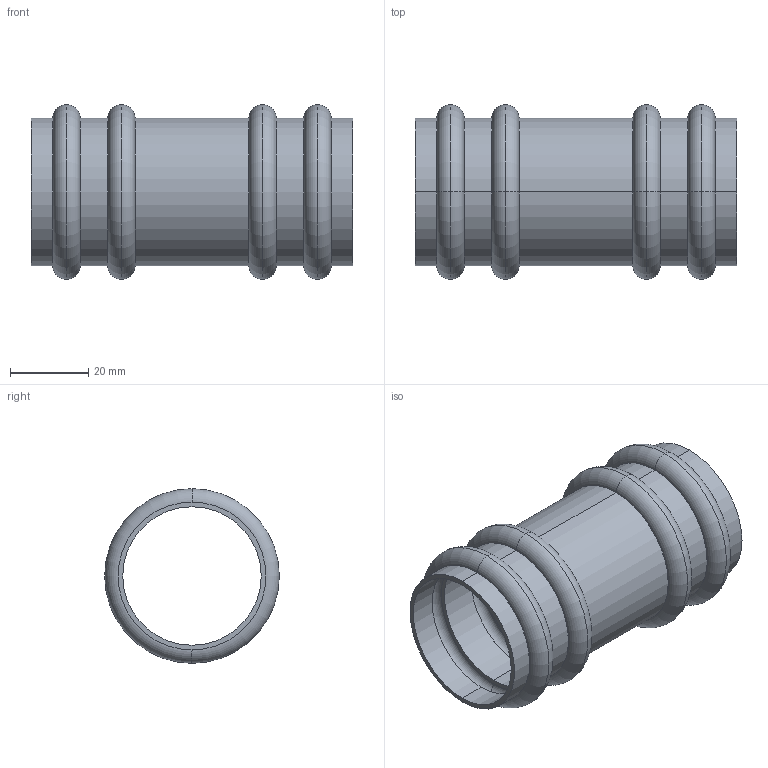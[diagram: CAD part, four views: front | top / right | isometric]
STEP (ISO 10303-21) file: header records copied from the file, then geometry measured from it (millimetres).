
FILE_DESCRIPTION(('starvars output'),'1');
FILE_NAME('cv20240422105224000011950.stp','10:52:25 2024/04/22',('Thomas Industrial Network Germany GmbH'),(' '),'Spatial InterOp 3D',' ',' ');
FILE_SCHEMA(('AUTOMOTIVE_DESIGN { 1 0 10303 214 3 1 1 }'));
Length unit declared in the file: millimetre
Products named in the file (1): 1
Bounding box: 82 x 44.5 x 44.5 mm (x, y, z)
Volume: 14763.2 mm3; surface area: 24210.9 mm2
Topology: 1 solids, 1 shells, 70 faces, 140 edges, 88 vertices
Faces by surface type: torus 32, cylinder 20, plane 18
Entity records: 2464 total; most frequent: DIRECTION 402, CARTESIAN_POINT 299, ORIENTED_EDGE 280, AXIS2_PLACEMENT_3D 191, EDGE_CURVE 140, CIRCLE 120, EDGE_LOOP 88, VERTEX_POINT 88
